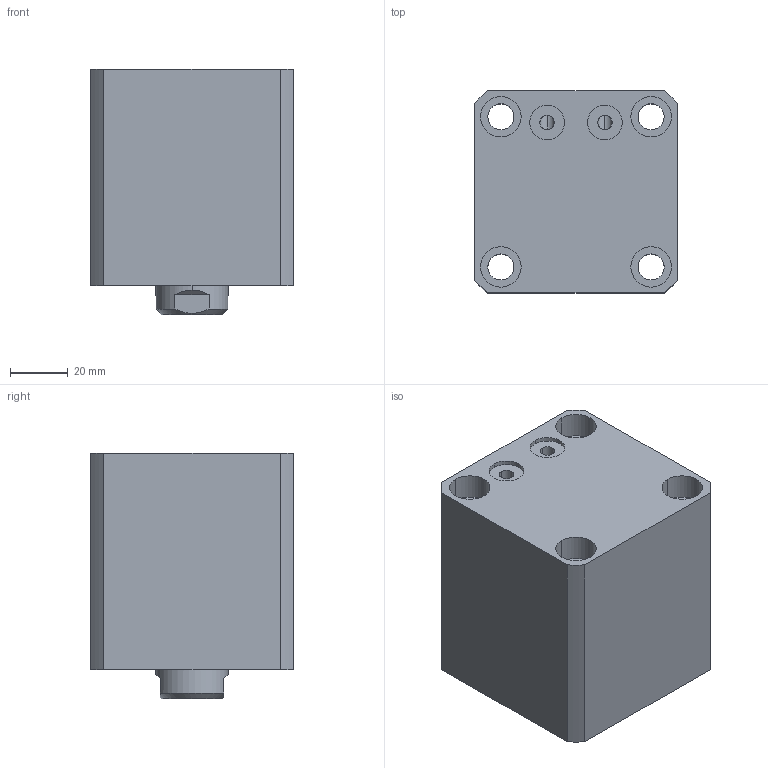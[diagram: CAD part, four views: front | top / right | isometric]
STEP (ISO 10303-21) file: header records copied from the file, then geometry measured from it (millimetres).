
FILE_DESCRIPTION (( 'STEP AP214' ), '1' );
FILE_NAME ('chtb-sdmb40x20n_asm.STEP', '2018-06-07T03:16:34', ( 'Windows' ), ( 'Microsoft' ), 'SwSTEP 2.0', 'SolidWorks 2015', '' );
FILE_SCHEMA (( 'AUTOMOTIVE_DESIGN' ));
Length unit declared in the file: millimetre
Products named in the file (4): CHTB-SDMB40X20NBT; CHTB-SD40X20NHSG; CHTB-SD40QG; chtb-sdmb40x20n_asm
Assembly tree (3 placements, depth 2):
  chtb-sdmb40x20n_asm
    CHTB-SD40QG
    CHTB-SD40X20NHSG
    CHTB-SDMB40X20NBT
Bounding box: 70 x 70 x 85 mm (x, y, z)
Volume: 317507.9 mm3; surface area: 70993.4 mm2
Topology: 3 solids, 3 shells, 155 faces, 407 edges, 270 vertices
Faces by surface type: cylinder 84, plane 34, bspline 14, torus 14, cone 9
Entity records: 10007 total; most frequent: CARTESIAN_POINT 6085, ORIENTED_EDGE 802, DIRECTION 758, EDGE_CURVE 401, AXIS2_PLACEMENT_3D 322, VERTEX_POINT 270, EDGE_LOOP 191, CIRCLE 175
